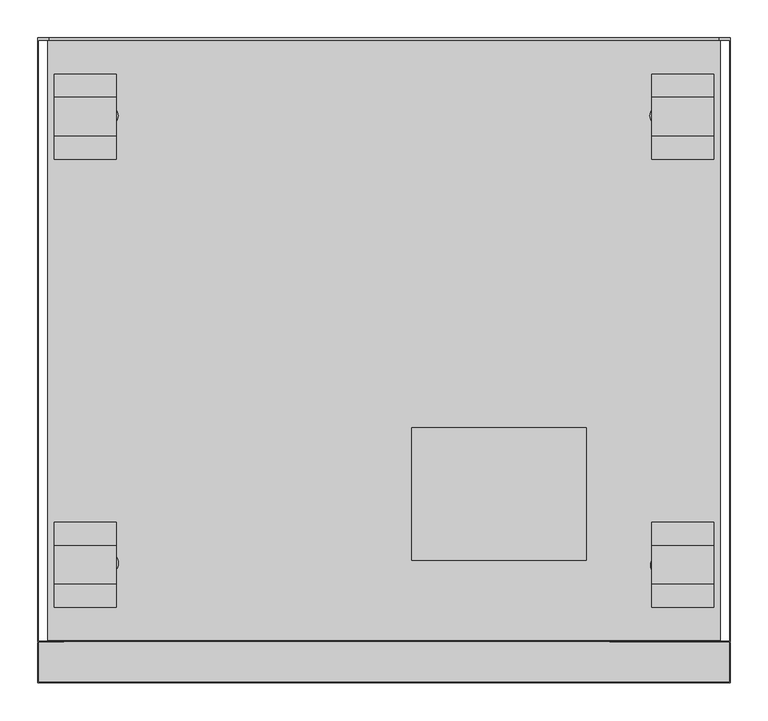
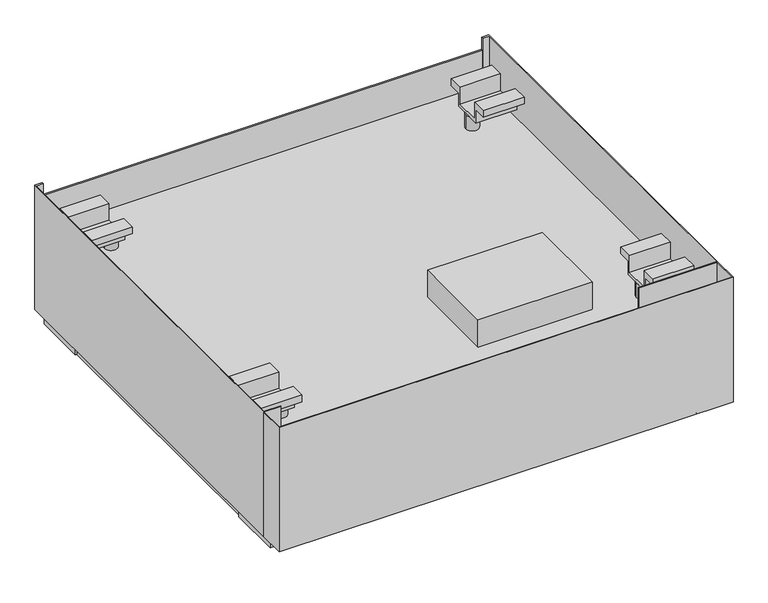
"""IFC4 building model written with IfcOpenShell, lengths in millimetres: proxy geometry, 11918240_EU_APWM042_SST : 59510042_EU_11918240_APWM042_SST."""

from ifc_helpers import new_model, si_unit, point, frame, frame_2d, origin, origin_with_axes, place, context, project, spatial, polyline, circle_curve, trimmed, segment, composite_curve, outline, extrude, faceted_brep, source, transform, mapped, element, save


def specialty_equipment_d2465e60(model_context):
    return source(origin(), model_context, "Body", "SolidModel", [
        extrude(outline(composite_curve([segment(trimmed(circle_curve(frame_2d((366.024381, -103.9272996)), 13.0), [point((379.024381, -103.9272996))], [point((353.024381, -103.9272996))], False, "CARTESIAN"), True, "CONTINUOUS"), segment(trimmed(circle_curve(frame_2d((366.024381, -103.9272996)), 13.0), [point((353.024381, -103.9272996))], [point((379.024381, -103.9272996))], False, "CARTESIAN"), True, "CONTINUOUS")], self_intersect=False)), frame((0.0, 0.0, 199.0), z_axis=(0.0, 0.0, 1.0), x_axis=(1.0, 0.0, 0.0)), (0.0, 0.0, 1.0), 30.0),
        extrude(outline(composite_curve([segment(trimmed(circle_curve(frame_2d((-366.024381, -103.9272996)), 13.0), [point((-379.024381, -103.9272996))], [point((-353.024381, -103.9272996))], False, "CARTESIAN"), True, "CONTINUOUS"), segment(trimmed(circle_curve(frame_2d((-366.024381, -103.9272996)), 13.0), [point((-353.024381, -103.9272996))], [point((-379.024381, -103.9272996))], False, "CARTESIAN"), True, "CONTINUOUS")], self_intersect=False)), frame((0.0, 0.0, 199.0), z_axis=(0.0, 0.0, 1.0), x_axis=(1.0, 0.0, 0.0)), (0.0, 0.0, 1.0), 30.0),
        extrude(outline(composite_curve([segment(trimmed(circle_curve(frame_2d((-365.6384713, -697.9851183)), 13.0), [point((-378.6384713, -697.9851183))], [point((-352.6384713, -697.9851183))], False, "CARTESIAN"), True, "CONTINUOUS"), segment(trimmed(circle_curve(frame_2d((-365.6384713, -697.9851183)), 13.0), [point((-352.6384713, -697.9851183))], [point((-378.6384713, -697.9851183))], False, "CARTESIAN"), True, "CONTINUOUS")], self_intersect=False)), frame((0.0, 0.0, 199.0), z_axis=(0.0, 0.0, 1.0), x_axis=(1.0, 0.0, 0.0)), (0.0, 0.0, 1.0), 30.0),
        extrude(outline(polyline([(52.0145632, 441.1258063), (52.0145632, 434.8946043), (18.0, 434.8946043), (18.0, 390.0), (0.0, 390.0), (0.0, 441.1258063), (52.0145632, 441.1258063)])), frame((0.0, -707.0, 0.0), z_axis=(0.0, 1.0, 0.0), x_axis=(0.0, 0.0, 1.0)), (0.0, 0.0, 1.0), 607.0),
        extrude(outline(polyline([(441.0, -707.0), (441.0, -793.0), (350.0, -793.0), (350.0, -745.3861084), (388.9999568, -745.3861084), (388.9999568, -707.0), (441.0, -707.0)]), holes=[composite_curve([segment(trimmed(circle_curve(frame_2d((410.293628, -765.150216)), 8.0562321), [point((418.3498601, -765.150216))], [point((402.237396, -765.150216))], True, "CARTESIAN"), True, "CONTINUOUS"), segment(trimmed(circle_curve(frame_2d((410.293628, -765.150216)), 8.0562321), [point((402.237396, -765.150216))], [point((418.3498601, -765.150216))], True, "CARTESIAN"), True, "CONTINUOUS")], self_intersect=False)]), origin_with_axes(), (0.0, 0.0, 1.0), 11.5903958),
        extrude(outline(polyline([(-441.0, -707.0), (-389.0000432, -707.0), (-389.0000432, -745.3861084), (-350.0, -745.3861084), (-350.0, -793.0), (-441.0, -793.0), (-441.0, -707.0)]), holes=[composite_curve([segment(trimmed(circle_curve(frame_2d((-410.293628, -765.150216)), 8.0562321), [point((-402.237396, -765.150216))], [point((-418.3498601, -765.150216))], True, "CARTESIAN"), True, "CONTINUOUS"), segment(trimmed(circle_curve(frame_2d((-410.293628, -765.150216)), 8.0562321), [point((-418.3498601, -765.150216))], [point((-402.237396, -765.150216))], True, "CARTESIAN"), True, "CONTINUOUS")], self_intersect=False)]), origin_with_axes(), (0.0, 0.0, 1.0), 11.5903958),
        extrude(outline(polyline([(-441.0, -100.0), (-441.0, -9.5), (-350.0, -9.5), (-350.0, -58.3861084), (-390.5000737, -58.3861084), (-390.5000737, -100.0), (-441.0, -100.0)]), holes=[composite_curve([segment(trimmed(circle_curve(frame_2d((-410.293628, -39.8494788)), 8.0562321), [point((-418.3498601, -39.8494788))], [point((-402.237396, -39.8494788))], True, "CARTESIAN"), True, "CONTINUOUS"), segment(trimmed(circle_curve(frame_2d((-410.293628, -39.8494788)), 8.0562321), [point((-402.237396, -39.8494788))], [point((-418.3498601, -39.8494788))], True, "CARTESIAN"), True, "CONTINUOUS")], self_intersect=False)]), origin_with_axes(), (0.0, 0.0, 1.0), 11.5903958),
        extrude(outline(polyline([(441.0, -100.0), (390.4999263, -100.0), (390.4999263, -58.3861084), (350.0, -58.3861084), (350.0, -9.5), (441.0, -9.5), (441.0, -100.0)]), holes=[composite_curve([segment(trimmed(circle_curve(frame_2d((410.293628, -39.8494788)), 8.0562321), [point((402.237396, -39.8494788))], [point((418.3498601, -39.8494788))], True, "CARTESIAN"), True, "CONTINUOUS"), segment(trimmed(circle_curve(frame_2d((410.293628, -39.8494788)), 8.0562321), [point((418.3498601, -39.8494788))], [point((402.237396, -39.8494788))], True, "CARTESIAN"), True, "CONTINUOUS")], self_intersect=False)]), origin_with_axes(), (0.0, 0.0, 1.0), 11.5903958),
        extrude(outline(polyline([(459.0, -802.0), (459.0, -856.0), (-459.0, -856.0), (-459.0, -802.0), (459.0, -802.0)])), frame((0.0, 0.0, 33.0002937), z_axis=(0.0, 0.0, 1.0), x_axis=(1.0, 0.0, 0.0)), (0.0, 0.0, 1.0), 2.0),
        extrude(outline(polyline([(-756.2654995, 272.0), (-726.2654995, 272.0), (-726.2654995, 236.0), (-673.9995117, 236.0), (-673.9995117, 272.0), (-643.733047, 272.0), (-643.733047, 257.6000392), (-669.9998779, 257.6000392), (-669.9998779, 229.0), (-729.9998779, 229.0), (-729.9998779, 257.6000392), (-756.2654995, 257.6000392), (-756.2654995, 272.0)])), frame((355.4998601, 0.0, 0.0), z_axis=(1.0, 0.0, 0.0), x_axis=(0.0, 1.0, 0.0)), (0.0, 0.0, 1.0), 82.5001399),
        extrude(outline(polyline([(-756.2654995, 272.0), (-726.2654995, 272.0), (-726.2654995, 236.0), (-673.9995117, 236.0), (-673.9995117, 272.0), (-643.733047, 272.0), (-643.733047, 257.6000392), (-669.9998779, 257.6000392), (-669.9998779, 229.0), (-729.9998779, 229.0), (-729.9998779, 257.6000392), (-756.2654995, 257.6000392), (-756.2654995, 272.0)])), frame((-438.0, 0.0, 0.0), z_axis=(1.0, 0.0, 0.0), x_axis=(0.0, 1.0, 0.0)), (0.0, 0.0, 1.0), 82.5001399),
        extrude(outline(polyline([(-48.7341953, 271.5002739), (-48.7341953, 257.6000392), (-74.9998169, 257.6000392), (-74.9998169, 229.0), (-134.9998169, 229.0), (-134.9998169, 257.6000392), (-161.2666478, 257.6000392), (-161.2666478, 271.5002739), (-131.0001831, 271.5002739), (-131.0001831, 236.0), (-78.7341953, 236.0), (-78.7341953, 271.5002739), (-48.7341953, 271.5002739)])), frame((-438.0, 0.0, 0.0), z_axis=(1.0, 0.0, 0.0), x_axis=(0.0, 1.0, 0.0)), (0.0, 0.0, 1.0), 82.5001399),
        extrude(outline(polyline([(-48.7341953, 272.0), (-48.7341953, 257.6000392), (-74.9998169, 257.6000392), (-74.9998169, 229.0), (-134.9998169, 229.0), (-134.9998169, 257.6000392), (-161.2666478, 257.6000392), (-161.2666478, 272.0), (-131.0001831, 272.0), (-131.0001831, 236.0), (-78.7341953, 236.0), (-78.7341953, 272.0), (-48.7341953, 272.0)])), frame((355.4998601, 0.0, 0.0), z_axis=(1.0, 0.0, 0.0), x_axis=(0.0, 1.0, 0.0)), (0.0, 0.0, 1.0), 82.5001399),
        extrude(outline(composite_curve([segment(trimmed(circle_curve(frame_2d((367.0747807, -700.5277164)), 13.0), [point((380.0747807, -700.5277164))], [point((354.0747807, -700.5277164))], False, "CARTESIAN"), True, "CONTINUOUS"), segment(trimmed(circle_curve(frame_2d((367.0747807, -700.5277164)), 13.0), [point((354.0747807, -700.5277164))], [point((380.0747807, -700.5277164))], False, "CARTESIAN"), True, "CONTINUOUS")], self_intersect=False)), frame((0.0, 0.0, 199.0), z_axis=(0.0, 0.0, 1.0), x_axis=(1.0, 0.0, 0.0)), (0.0, 0.0, 1.0), 30.0),
        extrude(outline(polyline([(-790.5000153, 52.0), (-790.5000153, 18.0), (-742.5000153, 18.0), (-742.5000153, 0.0), (-793.0, 0.0), (-793.0, 52.0), (-790.5000153, 52.0)])), frame((-350.0, 0.0, 0.0), z_axis=(1.0, 0.0, 0.0), x_axis=(0.0, 1.0, 0.0)), (0.0, 0.0, 1.0), 700.0),
        extrude(outline(polyline([(-12.0, 52.0), (-9.5000153, 52.0), (-9.5000153, 0.0), (-60.0, 0.0), (-60.0, 18.0), (-12.0, 18.0), (-12.0, 52.0)])), frame((-350.0, 0.0, 0.0), z_axis=(1.0, 0.0, 0.0), x_axis=(0.0, 1.0, 0.0)), (0.0, 0.0, 1.0), 700.0),
        extrude(outline(polyline([(52.0145632, -441.1258063), (0.0, -441.1258063), (0.0, -390.0), (18.0, -390.0), (18.0, -434.8946043), (52.0145632, -434.8946043), (52.0145632, -441.1258063)])), frame((0.0, -707.0, 0.0), z_axis=(0.0, 1.0, 0.0), x_axis=(0.0, 0.0, 1.0)), (0.0, 0.0, 1.0), 607.0),
        extrude(outline(polyline([(444.0, -797.5000153), (337.1649124, -797.5000153), (337.1649124, -793.0), (441.0, -793.0), (441.0, -687.9607935), (444.0, -687.9607935), (444.0, -797.5000153)])), origin_with_axes(), (0.0, 0.0, 1.0), 194.0),
        extrude(outline(polyline([(-444.0, -797.5000153), (-444.0, -687.9607935), (-441.2128543, -687.9607935), (-441.2128543, -793.0), (-337.1649124, -793.0), (-337.1649124, -797.5000153), (-444.0, -797.5000153)])), origin_with_axes(), (0.0, 0.0, 1.0), 194.0),
        extrude(outline(polyline([(444.0, -5.0), (444.0, -114.5392218), (441.0, -114.5392218), (441.0, -9.5000153), (337.1649124, -9.5000153), (337.1649124, -5.0), (444.0, -5.0)])), origin_with_axes(), (0.0, 0.0, 1.0), 194.0),
        extrude(outline(polyline([(-444.0, -5.0), (-337.1649124, -5.0), (-337.1649124, -9.5000153), (-441.2128543, -9.5000153), (-441.2128543, -114.5392218), (-444.0, -114.5392218), (-444.0, -5.0)])), origin_with_axes(), (0.0, 0.0, 1.0), 194.0),
        faceted_brep([(446.5, -4.0, 199.0), (-446.5, -4.0, 199.0), (-446.5, -800.5000153, 199.0), (446.5, -800.5000153, 199.0), (446.5, -4.0, 189.9245813), (446.5, -800.5000153, 189.9245813), (-446.5, -800.5000153, 189.9245813), (-446.5, -4.0, 189.9245813), (444.0, -5.0, 189.9245813), (-444.0, -5.0, 189.9245813), (-444.0, -797.5000153, 189.9245813), (444.0, -797.5000153, 189.9245813), (444.0, -5.0, 194.0), (444.0, -797.5000153, 194.0), (-444.0, -797.5000153, 194.0), (-444.0, -5.0, 194.0)], [[[0, 1, 2, 3]], [[4, 5, 6, 7], [8, 9, 10, 11]], [[1, 0, 4, 7]], [[2, 1, 7, 6]], [[3, 2, 6, 5]], [[0, 3, 5, 4]], [[12, 13, 14, 15]], [[12, 15, 9, 8]], [[15, 14, 10, 9]], [[14, 13, 11, 10]], [[13, 12, 8, 11]]]),
        extrude(outline(polyline([(445.0, -3.7341953), (-445.0, -3.7341953), (-445.0, 0.0), (445.0, 0.0), (445.0, -3.7341953)])), frame((0.0, 0.0, 155.0), z_axis=(0.0, 0.0, 1.0), x_axis=(1.0, 0.0, 0.0)), (0.0, 0.0, 1.0), 119.4502983),
        extrude(outline(polyline([(-460.0, -803.5000153), (-459.0, -803.5000153), (-459.0, -856.0), (459.0, -856.0), (459.0, -803.5000153), (460.0, -803.5000153), (460.0, -857.0), (-460.0, -857.0), (-460.0, -803.5000153)])), frame((0.0, 0.0, 33.0002937), z_axis=(0.0, 0.0, 1.0), x_axis=(1.0, 0.0, 0.0)), (0.0, 0.0, 1.0), 266.9997063),
        extrude(outline(polyline([(-460.0, 0.0), (-445.0, 0.0), (-445.0, -3.7341953), (-459.0, -3.7341953), (-459.0, -801.5000153), (-425.0000737, -801.5000153), (-425.0000737, -802.5000153), (-460.0, -802.5000153), (-460.0, 0.0)])), frame((0.0, 0.0, 33.0002937), z_axis=(0.0, 0.0, 1.0), x_axis=(1.0, 0.0, 0.0)), (0.0, 0.0, 1.0), 266.9997063),
        extrude(outline(polyline([(460.0, -802.5000153), (299.9999263, -802.5000153), (299.9999263, -801.5000153), (459.0, -801.5000153), (459.0, -3.7341953), (445.0, -3.7341953), (445.0, 0.0), (460.0, 0.0), (460.0, -802.5000153)])), frame((0.0, 0.0, 33.0002937), z_axis=(0.0, 0.0, 1.0), x_axis=(1.0, 0.0, 0.0)), (0.0, 0.0, 1.0), 266.9997063),
        extrude(outline(polyline([(406.365857, -770.150216), (406.365857, -760.104585), (410.1991874, -760.104585), (412.0766119, -760.4001169), (413.185163, -761.3087854), (413.5861543, -762.5939198), (413.2489292, -763.7674634), (412.229896, -764.6565116), (413.4672058, -765.5933844), (413.9000803, -767.1556566), (413.6045484, -768.5057835), (412.8724633, -769.4671818), (411.7798537, -769.9773115), (410.1697569, -770.150216), (406.365857, -770.150216)]), holes=[polyline([(407.6215609, -764.1856226), (409.914692, -764.1856226), (411.2537825, -764.0777106), (412.0594441, -763.612953), (412.3304505, -762.7950287), (412.0778382, -761.9758781), (411.3543369, -761.4915001), (409.7405612, -761.3602889), (407.6215609, -761.3602889), (407.6215609, -764.1856226)]), polyline([(407.6215609, -768.8945121), (410.1967349, -768.8945121), (411.1287026, -768.8454612), (411.9171963, -768.5720023), (412.6443764, -767.1679193), (412.4040269, -766.1918058), (411.6253433, -765.6093259), (410.0741076, -765.4413265), (407.6215609, -765.4413265), (407.6215609, -768.8945121)])]), frame((0.0, 0.0, -1.0), z_axis=(0.0, 0.0, 1.0), x_axis=(1.0, 0.0, 0.0)), (0.0, 0.0, 1.0), 1.0),
        extrude(outline(polyline([(-413.4291913, -769.8670671), (-413.4291913, -759.8214361), (-409.595861, -759.8214361), (-407.7184365, -760.1169679), (-406.6098854, -761.0256365), (-406.2088941, -762.3107709), (-406.5461192, -763.4843145), (-407.5651523, -764.3733626), (-406.3278426, -765.3102354), (-405.8949681, -766.8725076), (-406.1905, -768.2226346), (-406.9225851, -769.1840328), (-408.0151947, -769.6941625), (-409.6252915, -769.8670671), (-413.4291913, -769.8670671)]), holes=[polyline([(-412.1734875, -763.9024737), (-409.8803564, -763.9024737), (-408.5412659, -763.7945616), (-407.7356043, -763.329804), (-407.4645979, -762.5118797), (-407.7172102, -761.6927291), (-408.4407115, -761.2083512), (-410.0544872, -761.0771399), (-412.1734875, -761.0771399), (-412.1734875, -763.9024737)]), polyline([(-412.1734875, -768.6113632), (-409.5983135, -768.6113632), (-408.6663458, -768.5623123), (-407.877852, -768.2888533), (-407.150672, -766.8847704), (-407.3910215, -765.9086568), (-408.1697051, -765.326177), (-409.7209408, -765.1581775), (-412.1734875, -765.1581775), (-412.1734875, -768.6113632)])]), frame((0.0, 0.0, -1.0), z_axis=(0.0, 0.0, 1.0), x_axis=(1.0, 0.0, 0.0)), (0.0, 0.0, 1.0), 1.0),
        extrude(outline(polyline([(406.6277747, -44.8494788), (406.6277747, -34.8038478), (410.4611051, -34.8038478), (412.3385295, -35.0993797), (413.4470806, -36.0080482), (413.848072, -37.2931826), (413.5108468, -38.4667262), (412.4918137, -39.3557743), (413.7291235, -40.2926472), (414.161998, -41.8549194), (413.8664661, -43.2050463), (413.1343809, -44.1664446), (412.0417714, -44.6765743), (410.4316745, -44.8494788), (406.6277747, -44.8494788)]), holes=[polyline([(407.8834786, -38.8848854), (410.1766097, -38.8848854), (411.5157001, -38.7769733), (412.3213617, -38.3122158), (412.5923681, -37.4942914), (412.3397558, -36.6751409), (411.6162546, -36.1907629), (410.0024789, -36.0595517), (407.8834786, -36.0595517), (407.8834786, -38.8848854)]), polyline([(407.8834786, -43.5937749), (410.4586526, -43.5937749), (411.3906203, -43.544724), (412.179114, -43.271265), (412.9062941, -41.8671821), (412.6659445, -40.8910685), (411.887261, -40.3085887), (410.3360252, -40.1405893), (407.8834786, -40.1405893), (407.8834786, -43.5937749)])]), frame((0.0, 0.0, -1.0), z_axis=(0.0, 0.0, 1.0), x_axis=(1.0, 0.0, 0.0)), (0.0, 0.0, 1.0), 1.0),
        extrude(outline(polyline([(-413.691109, -44.8494788), (-413.691109, -34.8038478), (-409.8577786, -34.8038478), (-407.9803542, -35.0993797), (-406.8718031, -36.0080482), (-406.4708117, -37.2931826), (-406.8080369, -38.4667262), (-407.82707, -39.3557743), (-406.5897602, -40.2926472), (-406.1568858, -41.8549194), (-406.4524176, -43.2050463), (-407.1845028, -44.1664446), (-408.2771123, -44.6765743), (-409.8872092, -44.8494788), (-413.691109, -44.8494788)]), holes=[polyline([(-412.4354051, -38.8848854), (-410.142274, -38.8848854), (-408.8031836, -38.7769733), (-407.997522, -38.3122158), (-407.7265156, -37.4942914), (-407.9791279, -36.6751409), (-408.7026292, -36.1907629), (-410.3164048, -36.0595517), (-412.4354051, -36.0595517), (-412.4354051, -38.8848854)]), polyline([(-412.4354051, -43.5937749), (-409.8602312, -43.5937749), (-408.9282635, -43.544724), (-408.1397697, -43.271265), (-407.4125896, -41.8671821), (-407.6529392, -40.8910685), (-408.4316228, -40.3085887), (-409.9828585, -40.1405893), (-412.4354051, -40.1405893), (-412.4354051, -43.5937749)])]), frame((0.0, 0.0, -1.0), z_axis=(0.0, 0.0, 1.0), x_axis=(1.0, 0.0, 0.0)), (0.0, 0.0, 1.0), 1.0),
        extrude(outline(polyline([(268.8226917, -518.0024719), (268.8226917, -694.2502441), (37.0138568, -694.2502441), (37.0138568, -518.0024719), (268.8226917, -518.0024719)])), frame((0.0, 0.0, 199.0), z_axis=(0.0, 0.0, 1.0), x_axis=(1.0, 0.0, 0.0)), (0.0, 0.0, 1.0), 58.6000392),
    ])


if __name__ == "__main__":
    model = new_model("IFC4")
    model_context = context("Model", 3, world=origin())
    ifc_project = project(units=[si_unit("LENGTHUNIT", "METRE", prefix="MILLI")], contexts=[model_context])
    site = spatial("IfcSite", under=ifc_project)
    building = spatial("IfcBuilding", under=site)
    placement = place(None, origin())
    specialty_equipment_shape = specialty_equipment_d2465e60(model_context)
    element("IfcBuildingElementProxy", 1, Name="11918240_EU_APWM042_SST : 59510042_EU_11918240_APWM042_SST", ObjectType="11918240_EU_APWM042_SST : 59510042_EU_11918240_APWM042_SST", at=placement, inside=building, context=model_context, shape_type="MappedRepresentation", body=[
        mapped(specialty_equipment_shape, transform((0.0, 0.0, 0.0), x_axis=(1.0, 0.0, 0.0), y_axis=(0.0, 1.0, 0.0), z_axis=(0.0, 0.0, 1.0))),
    ])
    save(model, "model.ifc")
